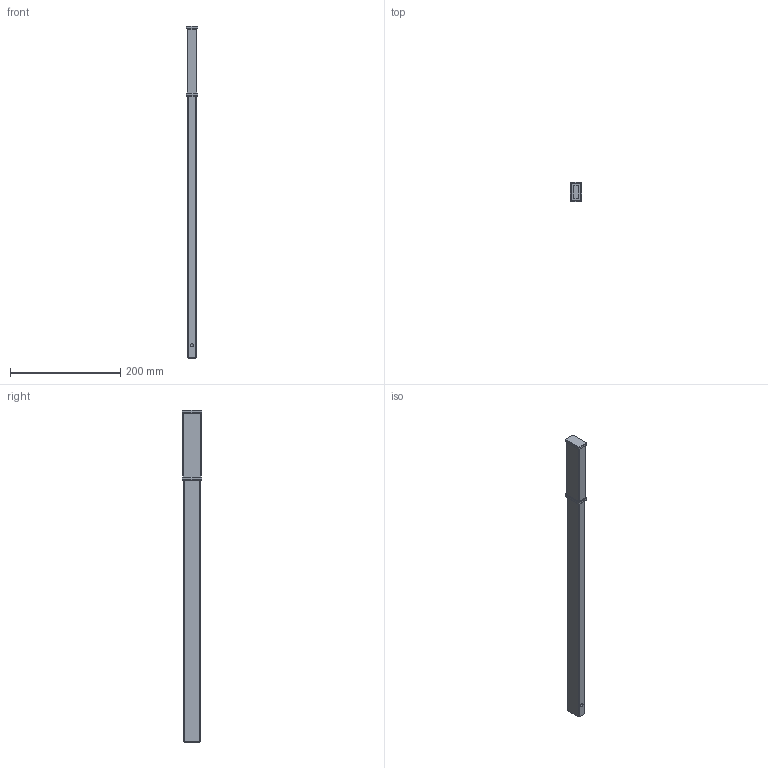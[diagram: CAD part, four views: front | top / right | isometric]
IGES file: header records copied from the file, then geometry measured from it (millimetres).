
Global section: file name: 6800.0053; native system: Autodesk Inventor 2026; preprocessor: unknown; author: christian.scardovi; date: 20260407.155014; units: millimetre
Bounding box: 21 x 36 x 602 mm (x, y, z)
Volume: 140603.7 mm3; surface area: 120059.9 mm2
Topology: 2 solids, 2 shells, 113 faces, 251 edges, 137 vertices
Faces by surface type: bspline 113
